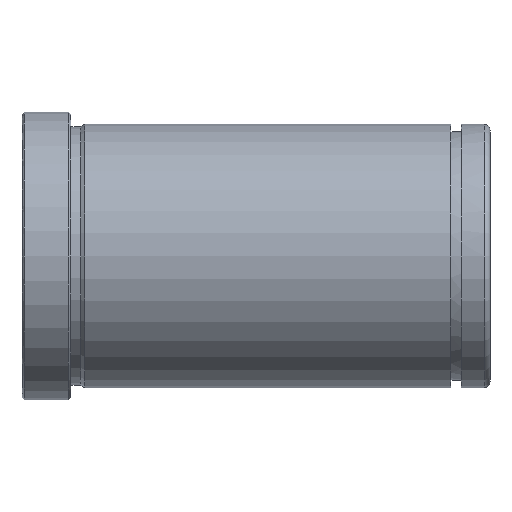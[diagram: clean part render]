
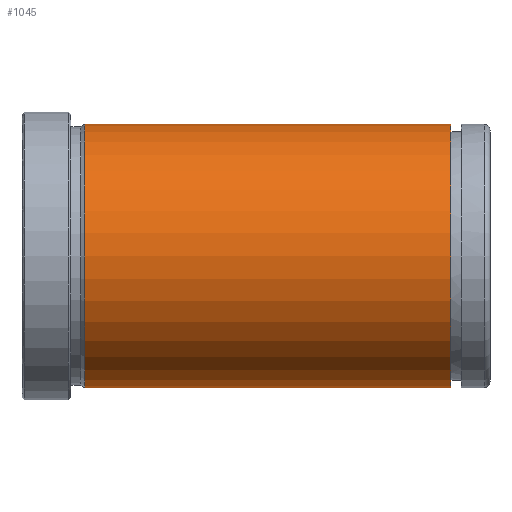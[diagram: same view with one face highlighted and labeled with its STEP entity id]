
A CAD part, front view. The second image highlights one B-rep face of the part: STEP entity #1045.
In plain terms, the highlighted cylindrical face has radius 27 mm (diameter 54 mm), a partial arc.
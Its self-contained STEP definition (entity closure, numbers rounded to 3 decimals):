
#851=CARTESIAN_POINT('Vertex',(12.866,0.,-27.)) ;
#858=CARTESIAN_POINT('Vertex',(12.866,0.,27.)) ;
#887=CARTESIAN_POINT('Axis2P3D Location',(12.866,0.,0.)) ;
#891=CARTESIAN_POINT('Vertex',(12.866,-27.,0.)) ;
#894=CARTESIAN_POINT('Axis2P3D Location',(12.866,0.,0.)) ;
#985=CARTESIAN_POINT('Line Origine',(192.,0.,27.)) ;
#989=CARTESIAN_POINT('Vertex',(88.,0.,27.)) ;
#1003=CARTESIAN_POINT('Vertex',(88.,0.,-27.)) ;
#1006=CARTESIAN_POINT('Line Origine',(192.,0.,-27.)) ;
#1020=CARTESIAN_POINT('Axis2P3D Location',(192.,0.,0.)) ;
#1025=CARTESIAN_POINT('Axis2P3D Location',(88.,0.,0.)) ;
#1029=CARTESIAN_POINT('Vertex',(88.,-27.,0.)) ;
#1032=CARTESIAN_POINT('Axis2P3D Location',(88.,0.,0.)) ;
#888=DIRECTION('Axis2P3D Direction',(1.,0.,-0.)) ;
#895=DIRECTION('Axis2P3D Direction',(1.,0.,-0.)) ;
#986=DIRECTION('Vector Direction',(-1.,0.,0.)) ;
#1007=DIRECTION('Vector Direction',(-1.,0.,0.)) ;
#1021=DIRECTION('Axis2P3D Direction',(-1.,-0.,-0.)) ;
#1022=DIRECTION('Axis2P3D XDirection',(0.,0.,-1.)) ;
#1026=DIRECTION('Axis2P3D Direction',(-1.,-0.,-0.)) ;
#1033=DIRECTION('Axis2P3D Direction',(-1.,-0.,-0.)) ;
#889=AXIS2_PLACEMENT_3D('Circle Axis2P3D',#887,#888,$) ;
#896=AXIS2_PLACEMENT_3D('Circle Axis2P3D',#894,#895,$) ;
#1023=AXIS2_PLACEMENT_3D('Cylinder Axis2P3D',#1020,#1021,#1022) ;
#1027=AXIS2_PLACEMENT_3D('Circle Axis2P3D',#1025,#1026,$) ;
#1034=AXIS2_PLACEMENT_3D('Circle Axis2P3D',#1032,#1033,$) ;
#1038=ORIENTED_EDGE('',*,*,#1010,.T.) ;
#1039=ORIENTED_EDGE('',*,*,#1031,.F.) ;
#1040=ORIENTED_EDGE('',*,*,#1036,.F.) ;
#1041=ORIENTED_EDGE('',*,*,#991,.T.) ;
#1042=ORIENTED_EDGE('',*,*,#898,.T.) ;
#1043=ORIENTED_EDGE('',*,*,#893,.T.) ;
#987=VECTOR('Line Direction',#986,1.) ;
#1008=VECTOR('Line Direction',#1007,1.) ;
#1045=ADVANCED_FACE('553-42X96',(#1044),#1024,.T.) ;
#890=CIRCLE('generated circle',#889,27.) ;
#897=CIRCLE('generated circle',#896,27.) ;
#1028=CIRCLE('generated circle',#1027,27.) ;
#1035=CIRCLE('generated circle',#1034,27.) ;
#1024=CYLINDRICAL_SURFACE('generated cylinder',#1023,27.) ;
#893=EDGE_CURVE('',#892,#852,#890,.T.) ;
#898=EDGE_CURVE('',#859,#892,#897,.T.) ;
#991=EDGE_CURVE('',#990,#859,#988,.T.) ;
#1010=EDGE_CURVE('',#852,#1004,#1009,.F.) ;
#1031=EDGE_CURVE('',#1030,#1004,#1028,.F.) ;
#1036=EDGE_CURVE('',#990,#1030,#1035,.F.) ;
#1037=EDGE_LOOP('',(#1038,#1039,#1040,#1041,#1042,#1043)) ;
#1044=FACE_OUTER_BOUND('',#1037,.T.) ;
#988=LINE('Line',#985,#987) ;
#1009=LINE('Line',#1006,#1008) ;
#852=VERTEX_POINT('',#851) ;
#859=VERTEX_POINT('',#858) ;
#892=VERTEX_POINT('',#891) ;
#990=VERTEX_POINT('',#989) ;
#1004=VERTEX_POINT('',#1003) ;
#1030=VERTEX_POINT('',#1029) ;
